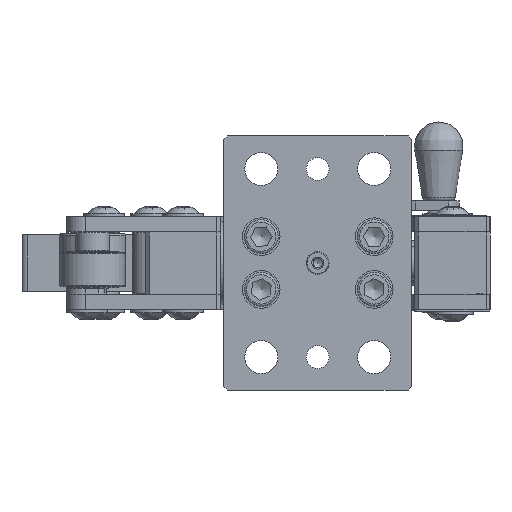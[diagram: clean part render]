
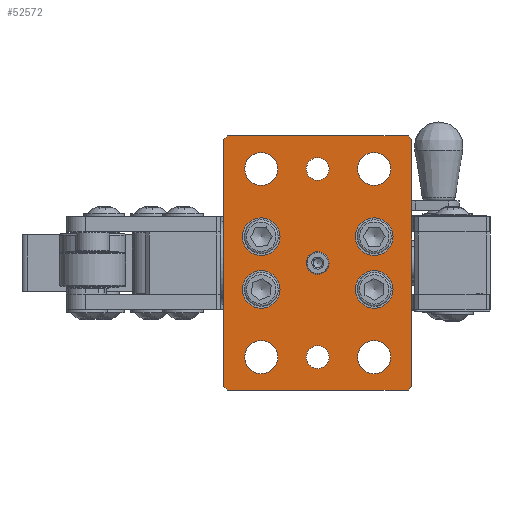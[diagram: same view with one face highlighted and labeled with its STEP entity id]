
A CAD part, left-side view. The second image highlights one B-rep face of the part: STEP entity #52572.
In plain terms, the highlighted planar face has unit normal (-1, 0, 0) as drawn and (0, 0, -1) by its records, which use the part's own axes.
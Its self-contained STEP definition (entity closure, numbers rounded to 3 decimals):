
#3813=FACE_BOUND('',#11644,.T.);
#3814=FACE_BOUND('',#11645,.T.);
#3815=FACE_BOUND('',#11646,.T.);
#3816=FACE_BOUND('',#11647,.T.);
#3817=FACE_BOUND('',#11648,.T.);
#3818=FACE_BOUND('',#11649,.T.);
#3819=FACE_BOUND('',#11650,.T.);
#3820=FACE_BOUND('',#11651,.T.);
#3821=FACE_BOUND('',#11652,.T.);
#3822=FACE_BOUND('',#11653,.T.);
#3823=FACE_BOUND('',#11654,.T.);
#5535=PLANE('',#55218);
#8255=FACE_OUTER_BOUND('',#11643,.T.);
#11643=EDGE_LOOP('',(#48436,#48437,#48438,#48439,#48440,#48441,#48442,#48443));
#11644=EDGE_LOOP('',(#48444));
#11645=EDGE_LOOP('',(#48445));
#11646=EDGE_LOOP('',(#48446));
#11647=EDGE_LOOP('',(#48447));
#11648=EDGE_LOOP('',(#48448));
#11649=EDGE_LOOP('',(#48449));
#11650=EDGE_LOOP('',(#48450));
#11651=EDGE_LOOP('',(#48451));
#11652=EDGE_LOOP('',(#48452));
#11653=EDGE_LOOP('',(#48453));
#11654=EDGE_LOOP('',(#48454));
#16793=LINE('',#91926,#21821);
#16800=LINE('',#91938,#21828);
#16806=LINE('',#91950,#21834);
#16808=LINE('',#91954,#21836);
#16810=LINE('',#91960,#21838);
#16812=LINE('',#91964,#21840);
#16817=LINE('',#91972,#21845);
#16820=LINE('',#92023,#21848);
#21821=VECTOR('',#64812,2.828);
#21828=VECTOR('',#64821,131.);
#21834=VECTOR('',#64831,2.828);
#21836=VECTOR('',#64835,96.);
#21838=VECTOR('',#64841,2.828);
#21840=VECTOR('',#64845,131.);
#21845=VECTOR('',#64852,2.828);
#21848=VECTOR('',#64919,96.);
#22528=CIRCLE('',#55144,6.05);
#22530=CIRCLE('',#55147,6.05);
#22532=CIRCLE('',#55150,6.05);
#22535=CIRCLE('',#55156,8.75);
#22539=CIRCLE('',#55163,8.75);
#22543=CIRCLE('',#55170,8.75);
#22546=CIRCLE('',#55176,8.75);
#22553=CIRCLE('',#55197,10.);
#22556=CIRCLE('',#55203,10.);
#22559=CIRCLE('',#55209,10.);
#22562=CIRCLE('',#55215,10.);
#27168=VERTEX_POINT('',#91867);
#27170=VERTEX_POINT('',#91872);
#27172=VERTEX_POINT('',#91877);
#27175=VERTEX_POINT('',#91886);
#27179=VERTEX_POINT('',#91897);
#27183=VERTEX_POINT('',#91908);
#27186=VERTEX_POINT('',#91917);
#27189=VERTEX_POINT('',#91923);
#27190=VERTEX_POINT('',#91925);
#27194=VERTEX_POINT('',#91936);
#27198=VERTEX_POINT('',#91948);
#27199=VERTEX_POINT('',#91952);
#27200=VERTEX_POINT('',#91957);
#27201=VERTEX_POINT('',#91959);
#27202=VERTEX_POINT('',#91963);
#27211=VERTEX_POINT('',#91992);
#27214=VERTEX_POINT('',#92001);
#27217=VERTEX_POINT('',#92010);
#27220=VERTEX_POINT('',#92019);
#34324=EDGE_CURVE('',#27168,#27168,#22528,.T.);
#34326=EDGE_CURVE('',#27170,#27170,#22530,.T.);
#34328=EDGE_CURVE('',#27172,#27172,#22532,.T.);
#34331=EDGE_CURVE('',#27175,#27175,#22535,.T.);
#34335=EDGE_CURVE('',#27179,#27179,#22539,.T.);
#34339=EDGE_CURVE('',#27183,#27183,#22543,.T.);
#34342=EDGE_CURVE('',#27186,#27186,#22546,.T.);
#34345=EDGE_CURVE('',#27189,#27190,#16793,.T.);
#34352=EDGE_CURVE('',#27189,#27194,#16800,.T.);
#34358=EDGE_CURVE('',#27198,#27194,#16806,.T.);
#34360=EDGE_CURVE('',#27198,#27199,#16808,.T.);
#34362=EDGE_CURVE('',#27200,#27201,#16810,.T.);
#34364=EDGE_CURVE('',#27202,#27201,#16812,.T.);
#34369=EDGE_CURVE('',#27202,#27199,#16817,.T.);
#34378=EDGE_CURVE('',#27211,#27211,#22553,.T.);
#34381=EDGE_CURVE('',#27214,#27214,#22556,.T.);
#34384=EDGE_CURVE('',#27217,#27217,#22559,.T.);
#34387=EDGE_CURVE('',#27220,#27220,#22562,.T.);
#34388=EDGE_CURVE('',#27200,#27190,#16820,.T.);
#48436=ORIENTED_EDGE('',*,*,#34345,.F.);
#48437=ORIENTED_EDGE('',*,*,#34352,.T.);
#48438=ORIENTED_EDGE('',*,*,#34358,.F.);
#48439=ORIENTED_EDGE('',*,*,#34360,.T.);
#48440=ORIENTED_EDGE('',*,*,#34369,.F.);
#48441=ORIENTED_EDGE('',*,*,#34364,.T.);
#48442=ORIENTED_EDGE('',*,*,#34362,.F.);
#48443=ORIENTED_EDGE('',*,*,#34388,.T.);
#48444=ORIENTED_EDGE('',*,*,#34324,.T.);
#48445=ORIENTED_EDGE('',*,*,#34326,.T.);
#48446=ORIENTED_EDGE('',*,*,#34328,.T.);
#48447=ORIENTED_EDGE('',*,*,#34331,.T.);
#48448=ORIENTED_EDGE('',*,*,#34335,.T.);
#48449=ORIENTED_EDGE('',*,*,#34339,.T.);
#48450=ORIENTED_EDGE('',*,*,#34342,.T.);
#48451=ORIENTED_EDGE('',*,*,#34378,.T.);
#48452=ORIENTED_EDGE('',*,*,#34381,.T.);
#48453=ORIENTED_EDGE('',*,*,#34384,.T.);
#48454=ORIENTED_EDGE('',*,*,#34387,.T.);
#52572=ADVANCED_FACE('',(#8255,#3813,#3814,#3815,#3816,#3817,#3818,#3819,
#3820,#3821,#3822,#3823),#5535,.F.);
#55144=AXIS2_PLACEMENT_3D('',#91868,#64742,#64743);
#55147=AXIS2_PLACEMENT_3D('',#91873,#64748,#64749);
#55150=AXIS2_PLACEMENT_3D('',#91878,#64754,#64755);
#55156=AXIS2_PLACEMENT_3D('',#91887,#64766,#64767);
#55163=AXIS2_PLACEMENT_3D('',#91898,#64780,#64781);
#55170=AXIS2_PLACEMENT_3D('',#91909,#64794,#64795);
#55176=AXIS2_PLACEMENT_3D('',#91918,#64806,#64807);
#55197=AXIS2_PLACEMENT_3D('',#91993,#64877,#64878);
#55203=AXIS2_PLACEMENT_3D('',#92002,#64889,#64890);
#55209=AXIS2_PLACEMENT_3D('',#92011,#64901,#64902);
#55215=AXIS2_PLACEMENT_3D('',#92020,#64913,#64914);
#55218=AXIS2_PLACEMENT_3D('',#92024,#64920,#64921);
#64742=DIRECTION('center_axis',(0.,0.,1.));
#64743=DIRECTION('ref_axis',(1.,0.,0.));
#64748=DIRECTION('center_axis',(0.,0.,1.));
#64749=DIRECTION('ref_axis',(1.,0.,0.));
#64754=DIRECTION('center_axis',(0.,0.,1.));
#64755=DIRECTION('ref_axis',(1.,0.,0.));
#64766=DIRECTION('center_axis',(0.,0.,1.));
#64767=DIRECTION('ref_axis',(1.,0.,0.));
#64780=DIRECTION('center_axis',(0.,0.,1.));
#64781=DIRECTION('ref_axis',(1.,0.,0.));
#64794=DIRECTION('center_axis',(0.,0.,1.));
#64795=DIRECTION('ref_axis',(1.,0.,0.));
#64806=DIRECTION('center_axis',(0.,0.,1.));
#64807=DIRECTION('ref_axis',(1.,0.,0.));
#64812=DIRECTION('',(-0.707,-0.707,0.));
#64821=DIRECTION('',(1.,0.,0.));
#64831=DIRECTION('',(-0.707,0.707,0.));
#64835=DIRECTION('',(0.,-1.,0.));
#64841=DIRECTION('',(0.707,-0.707,0.));
#64845=DIRECTION('',(-1.,0.,0.));
#64852=DIRECTION('',(0.707,0.707,0.));
#64877=DIRECTION('center_axis',(0.,0.,1.));
#64878=DIRECTION('ref_axis',(-1.,0.,0.));
#64889=DIRECTION('center_axis',(0.,0.,1.));
#64890=DIRECTION('ref_axis',(-1.,0.,0.));
#64901=DIRECTION('center_axis',(0.,0.,1.));
#64902=DIRECTION('ref_axis',(-1.,0.,0.));
#64913=DIRECTION('center_axis',(0.,0.,1.));
#64914=DIRECTION('ref_axis',(-1.,0.,0.));
#64919=DIRECTION('',(0.,1.,0.));
#64920=DIRECTION('center_axis',(0.,0.,1.));
#64921=DIRECTION('ref_axis',(1.,0.,0.));
#91867=CARTESIAN_POINT('',(-6.05,0.,0.));
#91868=CARTESIAN_POINT('Origin',(0.,0.,0.));
#91872=CARTESIAN_POINT('',(-56.05,0.,0.));
#91873=CARTESIAN_POINT('Origin',(-50.,0.,0.));
#91877=CARTESIAN_POINT('',(43.95,0.,0.));
#91878=CARTESIAN_POINT('Origin',(50.,0.,0.));
#91886=CARTESIAN_POINT('',(41.25,-30.,0.));
#91887=CARTESIAN_POINT('Origin',(50.,-30.,0.));
#91897=CARTESIAN_POINT('',(-58.75,30.,0.));
#91898=CARTESIAN_POINT('Origin',(-50.,30.,0.));
#91908=CARTESIAN_POINT('',(-58.75,-30.,0.));
#91909=CARTESIAN_POINT('Origin',(-50.,-30.,0.));
#91917=CARTESIAN_POINT('',(41.25,30.,0.));
#91918=CARTESIAN_POINT('Origin',(50.,30.,0.));
#91923=CARTESIAN_POINT('',(-65.5,50.,0.));
#91925=CARTESIAN_POINT('',(-67.5,48.,0.));
#91926=CARTESIAN_POINT('',(-62.125,53.375,0.));
#91936=CARTESIAN_POINT('',(65.5,50.,0.));
#91938=CARTESIAN_POINT('',(-67.5,50.,0.));
#91948=CARTESIAN_POINT('',(67.5,48.,0.));
#91950=CARTESIAN_POINT('',(62.125,53.375,0.));
#91952=CARTESIAN_POINT('',(67.5,-48.,0.));
#91954=CARTESIAN_POINT('',(67.5,50.,0.));
#91957=CARTESIAN_POINT('',(-67.5,-48.,0.));
#91959=CARTESIAN_POINT('',(-65.5,-50.,0.));
#91960=CARTESIAN_POINT('',(-62.125,-53.375,0.));
#91963=CARTESIAN_POINT('',(65.5,-50.,0.));
#91964=CARTESIAN_POINT('',(67.5,-50.,0.));
#91972=CARTESIAN_POINT('',(62.125,-53.375,0.));
#91992=CARTESIAN_POINT('',(-24.,-30.,0.));
#91993=CARTESIAN_POINT('Origin',(-14.,-30.,0.));
#92001=CARTESIAN_POINT('',(4.,30.,0.));
#92002=CARTESIAN_POINT('Origin',(14.,30.,0.));
#92010=CARTESIAN_POINT('',(4.,-30.,0.));
#92011=CARTESIAN_POINT('Origin',(14.,-30.,0.));
#92019=CARTESIAN_POINT('',(-24.,30.,0.));
#92020=CARTESIAN_POINT('Origin',(-14.,30.,0.));
#92023=CARTESIAN_POINT('',(-67.5,-50.,0.));
#92024=CARTESIAN_POINT('Origin',(0.,0.,0.));
